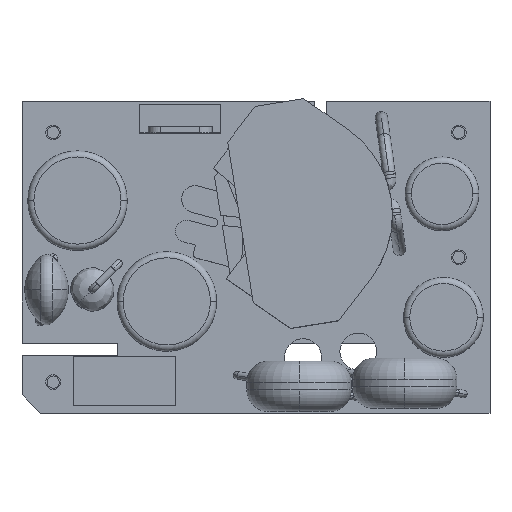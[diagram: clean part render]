
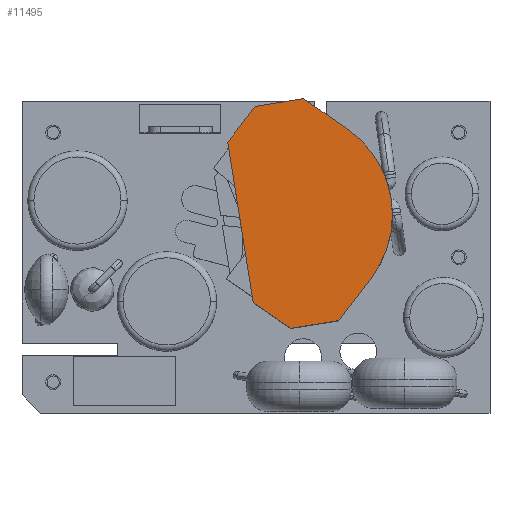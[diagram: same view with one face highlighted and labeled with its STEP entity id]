
A CAD part, top view. The second image highlights one B-rep face of the part: STEP entity #11495.
In plain terms, the highlighted planar face has unit normal (0, 0, 1) as drawn and (0, 1, 0) by its records, which use the part's own axes.
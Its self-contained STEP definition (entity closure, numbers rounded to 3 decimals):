
#36 = DIRECTION ( 'NONE',  ( 0.723, 0., -0.691 ) ) ;
#698 = DIRECTION ( 'NONE',  ( -0.723, 0., -0.691 ) ) ;
#710 = VERTEX_POINT ( 'NONE', #13837 ) ;
#711 = DIRECTION ( 'NONE',  ( 0., 0., -1. ) ) ;
#783 = CARTESIAN_POINT ( 'NONE',  ( -4.65, 11.7, -6.616 ) ) ;
#847 = VERTEX_POINT ( 'NONE', #1579 ) ;
#963 = VERTEX_POINT ( 'NONE', #3842 ) ;
#993 = VECTOR ( 'NONE', #5757, 1000. ) ;
#1579 = CARTESIAN_POINT ( 'NONE',  ( 2., 11.7, -9.15 ) ) ;
#1830 = ORIENTED_EDGE ( 'NONE', *, *, #8676, .T. ) ;
#1916 = VECTOR ( 'NONE', #698, 1000. ) ;
#1989 = CARTESIAN_POINT ( 'NONE',  ( -2., 11.7, 9.15 ) ) ;
#2021 = ORIENTED_EDGE ( 'NONE', *, *, #8994, .T. ) ;
#2071 = ORIENTED_EDGE ( 'NONE', *, *, #9953, .T. ) ;
#2353 = VECTOR ( 'NONE', #7970, 1000. ) ;
#2443 = AXIS2_PLACEMENT_3D ( 'NONE', #4316, #14949, #711 ) ;
#2499 = VERTEX_POINT ( 'NONE', #4975 ) ;
#2534 = CARTESIAN_POINT ( 'NONE',  ( 2., 11.7, 9.15 ) ) ;
#2794 = EDGE_CURVE ( 'NONE', #12752, #5454, #8024, .T. ) ;
#3842 = CARTESIAN_POINT ( 'NONE',  ( 5.144, 11.7, -6.144 ) ) ;
#4316 = CARTESIAN_POINT ( 'NONE',  ( -0.73, 11.7, 0. ) ) ;
#4543 = EDGE_CURVE ( 'NONE', #963, #847, #5764, .T. ) ;
#4704 = VECTOR ( 'NONE', #13656, 1000. ) ;
#4750 = ORIENTED_EDGE ( 'NONE', *, *, #15259, .T. ) ;
#4777 = EDGE_LOOP ( 'NONE', ( #2071, #6259, #2021, #1830, #13050, #8703, #12501, #4750 ) ) ;
#4975 = CARTESIAN_POINT ( 'NONE',  ( 5.144, 11.7, 6.144 ) ) ;
#5454 = VERTEX_POINT ( 'NONE', #10643 ) ;
#5721 = CARTESIAN_POINT ( 'NONE',  ( -2., 11.7, -9.15 ) ) ;
#5757 = DIRECTION ( 'NONE',  ( 0., 0., 1. ) ) ;
#5764 = LINE ( 'NONE', #6569, #1916 ) ;
#6185 = DIRECTION ( 'NONE',  ( 0.723, 0., 0.691 ) ) ;
#6259 = ORIENTED_EDGE ( 'NONE', *, *, #2794, .T. ) ;
#6569 = CARTESIAN_POINT ( 'NONE',  ( 2., 11.7, -9.15 ) ) ;
#7106 = FACE_OUTER_BOUND ( 'NONE', #4777, .T. ) ;
#7970 = DIRECTION ( 'NONE',  ( 1., 0., 0. ) ) ;
#8016 = DIRECTION ( 'NONE',  ( 0., 0., -1. ) ) ;
#8024 = LINE ( 'NONE', #10309, #993 ) ;
#8263 = LINE ( 'NONE', #14737, #10674 ) ;
#8272 = LINE ( 'NONE', #12457, #4704 ) ;
#8474 = LINE ( 'NONE', #9165, #2353 ) ;
#8518 = EDGE_CURVE ( 'NONE', #2499, #963, #9227, .T. ) ;
#8676 = EDGE_CURVE ( 'NONE', #11607, #710, #8474, .T. ) ;
#8703 = ORIENTED_EDGE ( 'NONE', *, *, #8518, .T. ) ;
#8994 = EDGE_CURVE ( 'NONE', #5454, #11607, #11601, .T. ) ;
#9165 = CARTESIAN_POINT ( 'NONE',  ( -2., 11.7, 9.15 ) ) ;
#9227 = CIRCLE ( 'NONE', #2443, 8.5 ) ;
#9953 = EDGE_CURVE ( 'NONE', #10654, #12752, #8263, .T. ) ;
#9956 = VECTOR ( 'NONE', #6185, 1000. ) ;
#10005 = DIRECTION ( 'NONE',  ( -0.723, 0., 0.691 ) ) ;
#10309 = CARTESIAN_POINT ( 'NONE',  ( -4.65, 11.7, -6.616 ) ) ;
#10428 = AXIS2_PLACEMENT_3D ( 'NONE', #12412, #12327, #8016 ) ;
#10643 = CARTESIAN_POINT ( 'NONE',  ( -4.65, 11.7, 6.616 ) ) ;
#10654 = VERTEX_POINT ( 'NONE', #5721 ) ;
#10674 = VECTOR ( 'NONE', #10005, 1000. ) ;
#10762 = EDGE_CURVE ( 'NONE', #710, #2499, #15258, .T. ) ;
#11495 = ADVANCED_FACE ( 'NONE', ( #7106 ), #14148, .F. ) ;
#11601 = LINE ( 'NONE', #12150, #9956 ) ;
#11607 = VERTEX_POINT ( 'NONE', #1989 ) ;
#12150 = CARTESIAN_POINT ( 'NONE',  ( -4.65, 11.7, 6.616 ) ) ;
#12327 = DIRECTION ( 'NONE',  ( 0., -1., 0. ) ) ;
#12412 = CARTESIAN_POINT ( 'NONE',  ( -0.73, 11.7, 0. ) ) ;
#12457 = CARTESIAN_POINT ( 'NONE',  ( -2., 11.7, -9.15 ) ) ;
#12501 = ORIENTED_EDGE ( 'NONE', *, *, #4543, .T. ) ;
#12663 = VECTOR ( 'NONE', #36, 1000. ) ;
#12752 = VERTEX_POINT ( 'NONE', #783 ) ;
#13050 = ORIENTED_EDGE ( 'NONE', *, *, #10762, .T. ) ;
#13656 = DIRECTION ( 'NONE',  ( -1., 0., 0. ) ) ;
#13837 = CARTESIAN_POINT ( 'NONE',  ( 2., 11.7, 9.15 ) ) ;
#14148 = PLANE ( 'NONE',  #10428 ) ;
#14737 = CARTESIAN_POINT ( 'NONE',  ( -2., 11.7, -9.15 ) ) ;
#14949 = DIRECTION ( 'NONE',  ( 0., 1., 0. ) ) ;
#15258 = LINE ( 'NONE', #2534, #12663 ) ;
#15259 = EDGE_CURVE ( 'NONE', #847, #10654, #8272, .T. ) ;
